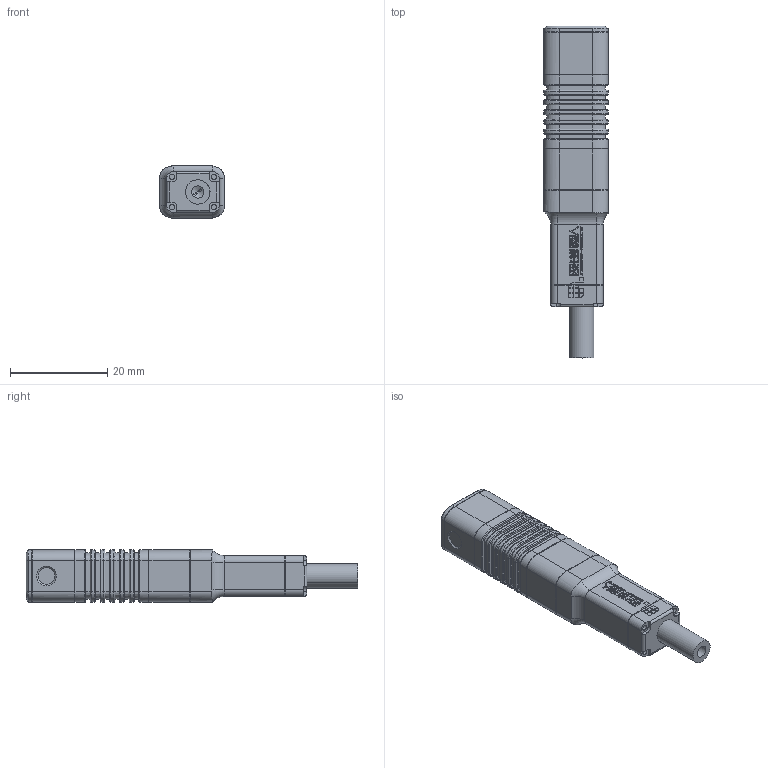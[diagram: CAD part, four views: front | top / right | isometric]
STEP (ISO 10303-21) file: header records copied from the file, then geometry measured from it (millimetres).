
FILE_DESCRIPTION (( 'STEP AP214' ), '1' );
FILE_NAME ('LA10-0x3D.STEP', '2022-12-27T02:53:19', ( '' ), ( '' ), '', '', '' );
FILE_SCHEMA (( 'AUTOMOTIVE_DESIGN' ));
Length unit declared in the file: millimetre
Products named in the file (5): exA8201XX-008L马达端盖压片Rev.14; Part2^LA10-0x3D; exA820109-015祥凄詩杶奪; SS1x3攫芛蹟佪; LA10-0x3D
Assembly tree (5 placements, depth 2):
  LA10-0x3D
    exA820109-015祥凄詩杶奪
    Part2^LA10-0x3D
    exA8201XX-008L马达端盖压片Rev.14
    SS1x3攫芛蹟佪  x2
Bounding box: 13.2 x 68.2 x 10.8 mm (x, y, z)
Volume: 6921.2 mm3; surface area: 3627.6 mm2
Topology: 5 solids, 6 shells, 1550 faces, 4031 edges, 2602 vertices
Faces by surface type: plane 808, bspline 569, cylinder 134, cone 27, torus 12
Entity records: 58506 total; most frequent: CARTESIAN_POINT 24815, ORIENTED_EDGE 7922, DIRECTION 5030, EDGE_CURVE 3961, VERTEX_POINT 2560, VECTOR 2516, LINE 2516, EDGE_LOOP 1647
